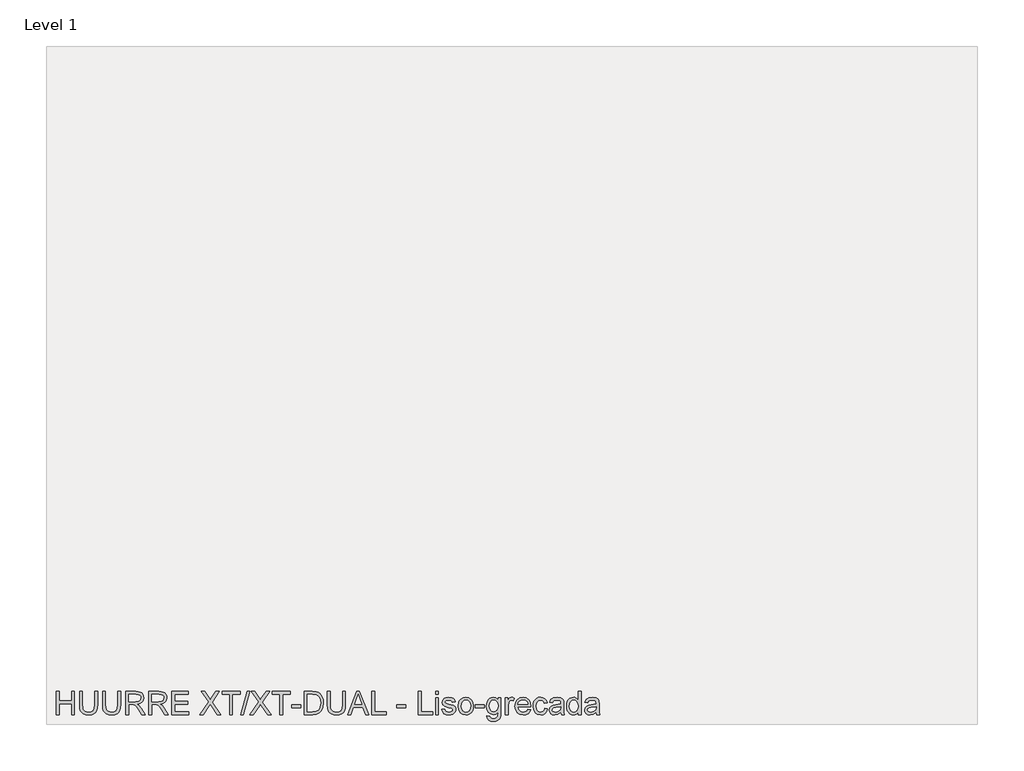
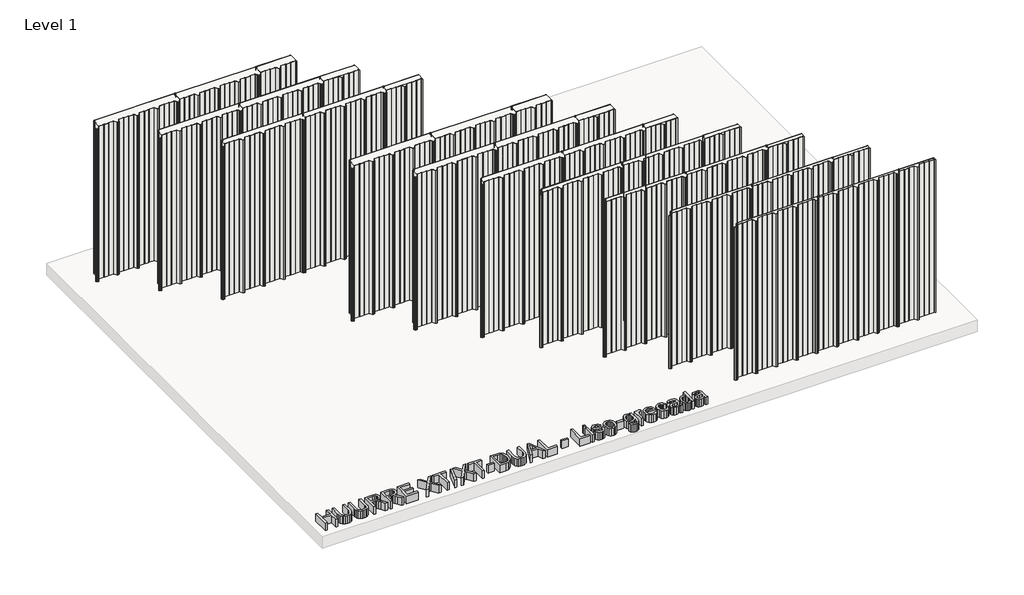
# One storey, part 2 of 2: 10 slabs, 1 proxy.
"""IFC4 building model written with IfcOpenShell, lengths in millimetres."""

from ifc_helpers import new_model, si_unit, origin, origin_with_axes, place, context, project, spatial, polyline, outline, extrude, transform, mapped, element, save
from components import hi_quadcore_2_0_xt_100_liso_grecada_3691bdb9, hi_quadcore_2_0_xt_100_liso_grecada_bb893d0f, hi_quadcore_2_0_xt_100_liso_grecada_5e3a8000, hi_quadcore_2_0_xt_120_liso_grecada_8e815707, hi_quadcore_2_0_xt_120_liso_grecada_a0ecb60e, hi_quadcore_2_0_xt_120_liso_grecada_1b2f7235, hi_quadcore_2_0_xt_120_liso_grecada_48899863, hi_quadcore_2_0_xt_30_liso_grecada_d6f32195, hi_quadcore_2_0_xt_30_liso_grecada_72e4314b, hi_quadcore_2_0_xt_30_liso_grecada_0a3880c4, hi_quadcore_2_0_xt_40_liso_grecada_13bfc901, hi_quadcore_2_0_xt_40_liso_grecada_7d9000d5, hi_quadcore_2_0_xt_40_liso_grecada_7a4d06f4, hi_quadcore_2_0_xt_50_liso_grecada_a248ecb3, hi_quadcore_2_0_xt_50_liso_grecada_fe10ae16, hi_quadcore_2_0_xt_50_liso_grecada_4b62e7a8, hi_quadcore_2_0_xt_60_liso_grecada_8b6392d8, hi_quadcore_2_0_xt_60_liso_grecada_5afc28c5, hi_quadcore_2_0_xt_60_liso_grecada_21506734, hi_quadcore_2_0_xt_80_liso_grecada_e33320db, hi_quadcore_2_0_xt_80_liso_grecada_cd35402f, hi_quadcore_2_0_xt_80_liso_grecada_460e0768, hi_quadcore_2_0_xt_dual_100_liso_grecada_713d99ed, hi_quadcore_2_0_xt_dual_80_liso_grecada_9f1d5c36

model = new_model("IFC4")

# Units and contexts
model_context = context("Model", 3, world=origin())
ifc_project = project(units=[si_unit("LENGTHUNIT", "METRE", prefix="MILLI")], contexts=[model_context])

# Site, building, storey
site = spatial("IfcSite", under=ifc_project)
building = spatial("IfcBuilding", under=site)
storey = spatial("IfcBuildingStorey", under=building, Name="Level 1", Elevation=0.0)

# Proxy
placement = place(None, origin())
element("IfcBuildingElementProxy", 1, Name="200mm Arial", ObjectType="200mm Arial", at=placement, inside=storey, context=model_context, shape_type="SweptSolid", body=[
    extrude(outline(polyline([(10660.8097426, 798.4307978), (10660.8097426, 999.3434181), (10685.9238201, 999.3434181), (10685.9238201, 917.7226661), (10792.6586497, 917.7226661), (10792.6586497, 999.3434181), (10817.7727272, 999.3434181), (10817.7727272, 798.4307978), (10792.6586497, 798.4307978), (10792.6586497, 892.6085886), (10685.9238201, 892.6085886), (10685.9238201, 798.4307978), (10660.8097426, 798.4307978)])), origin_with_axes(), (0.0, 0.0, 1.0), 100.0),
    extrude(outline(polyline([(10993.57127, 999.3434181), (11018.6853475, 999.3434181), (11018.6853475, 883.4360642), (11016.9808276, 856.2925043), (11011.8672679, 835.3906756), (11002.3145987, 819.2651815), (10987.2927506, 806.4506253), (10966.7649353, 798.0813099), (10940.6943645, 795.2915381), (10915.1940109, 797.7195593), (10894.807217, 805.0036228), (10879.5278515, 816.8923426), (10869.3497829, 833.1343327), (10863.6292179, 854.9190782), (10861.7223629, 883.4360642), (10861.7223629, 999.3434181), (10886.8364404, 999.3434181), (10886.8364404, 884.318981), (10888.0749765, 861.7494205), (10891.7905846, 846.034728), (10898.5228252, 835.1515523), (10908.8112583, 827.0765425), (10922.2266884, 822.0733474), (10938.3399198, 820.4056157), (10963.883193, 823.7042909), (10980.8670784, 833.6003165), (10990.3952221, 852.8773331), (10993.57127, 884.318981), (10993.57127, 999.3434181)])), origin_with_axes(), (0.0, 0.0, 1.0), 100.0),
    extrude(outline(polyline([(11194.4838903, 999.3434181), (11219.5979678, 999.3434181), (11219.5979678, 883.4360642), (11217.8934479, 856.2925043), (11212.7798882, 835.3906756), (11203.227219, 819.2651815), (11188.2053709, 806.4506253), (11167.6775556, 798.0813099), (11141.6069848, 795.2915381), (11116.1066312, 797.7195593), (11095.7198373, 805.0036228), (11080.4404718, 816.8923426), (11070.2624032, 833.1343327), (11064.5418382, 854.9190782), (11062.6349832, 883.4360642), (11062.6349832, 999.3434181), (11087.7490607, 999.3434181), (11087.7490607, 884.318981), (11088.9875968, 861.7494205), (11092.7032049, 846.034728), (11099.4354455, 835.1515523), (11109.7238786, 827.0765425), (11123.1393087, 822.0733474), (11139.2525401, 820.4056157), (11164.7958133, 823.7042909), (11181.7796987, 833.6003165), (11191.3078424, 852.8773331), (11194.4838903, 884.318981), (11194.4838903, 999.3434181)])), origin_with_axes(), (0.0, 0.0, 1.0), 100.0),
    extrude(outline(polyline([(11263.5476035, 798.4307978), (11263.5476035, 999.3434181), (11350.1224997, 999.3434181), (11373.3910359, 997.9883861), (11390.319739, 993.92329), (11402.6928368, 986.4184973), (11412.2945569, 974.7443754), (11418.4565803, 960.2682189), (11420.5105881, 944.3573226), (11417.1076797, 924.5652712), (11406.8989543, 908.1577342), (11389.5778437, 896.127993), (11364.8377795, 889.4693289), (11379.1116009, 878.7271746), (11399.467738, 852.8773331), (11432.969525, 798.4307978), (11403.7842201, 798.4307978), (11377.6400729, 840.0750397), (11358.7554639, 867.6416638), (11345.4871866, 880.6646865), (11333.5432844, 885.4471524), (11318.9751574, 886.3300692), (11288.661681, 886.3300692), (11288.661681, 798.4307978), (11263.5476035, 798.4307978)]), holes=[polyline([(11288.661681, 911.4441467), (11344.8740499, 911.4441467), (11373.5443201, 915.0003393), (11382.9743619, 919.6233898), (11389.8292297, 926.3801557), (11395.3965106, 943.4253548), (11392.7416288, 955.6758253), (11384.7769836, 965.5473255), (11371.0733793, 972.0588368), (11351.2016202, 974.2293406), (11288.661681, 974.2293406), (11288.661681, 911.4441467)])]), origin_with_axes(), (0.0, 0.0, 1.0), 100.0),
    extrude(outline(polyline([(11464.4602238, 798.4307978), (11464.4602238, 999.3434181), (11551.03512, 999.3434181), (11574.3036562, 997.9883861), (11591.2323593, 993.92329), (11603.6054571, 986.4184973), (11613.2071772, 974.7443754), (11619.3692006, 960.2682189), (11621.4232084, 944.3573226), (11618.0203, 924.5652712), (11607.8115746, 908.1577342), (11590.490464, 896.127993), (11565.7503998, 889.4693289), (11580.0242212, 878.7271746), (11600.3803583, 852.8773331), (11633.8821453, 798.4307978), (11604.6968404, 798.4307978), (11578.5526932, 840.0750397), (11559.6680842, 867.6416638), (11546.3998069, 880.6646865), (11534.4559047, 885.4471524), (11519.8877777, 886.3300692), (11489.5743013, 886.3300692), (11489.5743013, 798.4307978), (11464.4602238, 798.4307978)]), holes=[polyline([(11489.5743013, 911.4441467), (11545.7866702, 911.4441467), (11574.4569404, 915.0003393), (11583.8869822, 919.6233898), (11590.74185, 926.3801557), (11596.3091309, 943.4253548), (11593.6542491, 955.6758253), (11585.6896039, 965.5473255), (11571.9859996, 972.0588368), (11552.1142405, 974.2293406), (11489.5743013, 974.2293406), (11489.5743013, 911.4441467)])]), origin_with_axes(), (0.0, 0.0, 1.0), 100.0),
    extrude(outline(polyline([(11665.3728441, 798.4307978), (11665.3728441, 999.3434181), (11809.7787899, 999.3434181), (11809.7787899, 974.2293406), (11690.4869216, 974.2293406), (11690.4869216, 914.5834064), (11803.5002706, 914.5834064), (11803.5002706, 889.4693289), (11690.4869216, 889.4693289), (11690.4869216, 823.5448753), (11812.9180496, 823.5448753), (11812.9180496, 798.4307978), (11665.3728441, 798.4307978)])), origin_with_axes(), (0.0, 0.0, 1.0), 100.0),
    extrude(outline(polyline([(11907.0958404, 798.4307978), (11984.4982122, 907.9124796), (11919.6528792, 999.3434181), (11949.7211009, 999.3434181), (11986.2640458, 947.8399388), (11998.5758299, 927.7781073), (12012.9968041, 948.2813972), (12049.1473415, 999.3434181), (12079.7551235, 999.3434181), (12014.8607395, 907.569123), (12092.3121622, 798.4307978), (12062.1948896, 798.4307978), (12010.5442574, 871.173331), (11999.8021032, 886.2319673), (11988.0789303, 869.701803), (11937.7036224, 798.4307978), (11907.0958404, 798.4307978)])), origin_with_axes(), (0.0, 0.0, 1.0), 100.0),
    extrude(outline(polyline([(12167.6543948, 798.4307978), (12167.6543948, 974.2293406), (12101.7299413, 974.2293406), (12101.7299413, 999.3434181), (12258.6929259, 999.3434181), (12258.6929259, 974.2293406), (12192.7684724, 974.2293406), (12192.7684724, 798.4307978), (12167.6543948, 798.4307978)])), origin_with_axes(), (0.0, 0.0, 1.0), 100.0),
    extrude(outline(polyline([(12264.9714453, 798.4307978), (12321.4781198, 999.3434181), (12344.2377525, 999.3434181), (12287.6820271, 798.4307978), (12264.9714453, 798.4307978)])), origin_with_axes(), (0.0, 0.0, 1.0), 100.0),
    extrude(outline(polyline([(12343.4529376, 798.4307978), (12420.8553094, 907.9124796), (12356.0099764, 999.3434181), (12386.0781981, 999.3434181), (12422.621143, 947.8399388), (12434.9329271, 927.7781073), (12449.3539013, 948.2813972), (12485.5044387, 999.3434181), (12516.1122207, 999.3434181), (12451.2178367, 907.569123), (12528.6692594, 798.4307978), (12498.5519868, 798.4307978), (12446.9013547, 871.173331), (12436.1592004, 886.2319673), (12424.4360275, 869.701803), (12374.0607196, 798.4307978), (12343.4529376, 798.4307978)])), origin_with_axes(), (0.0, 0.0, 1.0), 100.0),
    extrude(outline(polyline([(12604.0114921, 798.4307978), (12604.0114921, 974.2293406), (12538.0870385, 974.2293406), (12538.0870385, 999.3434181), (12695.0500231, 999.3434181), (12695.0500231, 974.2293406), (12629.1255696, 974.2293406), (12629.1255696, 798.4307978), (12604.0114921, 798.4307978)])), origin_with_axes(), (0.0, 0.0, 1.0), 100.0),
    extrude(outline(polyline([(12707.6070619, 858.076732), (12707.6070619, 883.1908095), (12786.0885542, 883.1908095), (12786.0885542, 858.076732), (12707.6070619, 858.076732)])), origin_with_axes(), (0.0, 0.0, 1.0), 100.0),
    extrude(outline(polyline([(12817.4811511, 798.4307978), (12817.4811511, 999.3434181), (12886.790119, 999.3434181), (12922.6463508, 996.4494131), (12938.6614803, 990.8698695), (12952.1750123, 982.0774898), (12966.068689, 966.7735988), (12975.9647146, 947.7418369), (12981.8876148, 925.3500861), (12983.8619148, 899.9662285), (12978.5153631, 859.4256326), (12964.781102, 830.1667513), (12946.4360532, 811.9443298), (12922.4256216, 801.8643631), (12890.1255824, 798.4307978), (12817.4811511, 798.4307978)]), holes=[polyline([(12842.5952287, 823.5448753), (12887.0353737, 823.5448753), (12919.3599383, 827.1746444), (12937.9992927, 837.4262893), (12946.7242274, 848.2972023), (12953.2786583, 862.3686886), (12957.3805425, 879.7020619), (12958.7478373, 900.3586359), (12956.0684301, 927.7290564), (12948.0302085, 947.9380407), (12936.1537514, 961.8194546), (12921.9596378, 970.2071641), (12886.3486606, 974.2293406), (12842.5952287, 974.2293406), (12842.5952287, 823.5448753)])]), origin_with_axes(), (0.0, 0.0, 1.0), 100.0),
    extrude(outline(polyline([(13150.2426785, 999.3434181), (13175.356756, 999.3434181), (13175.356756, 883.4360642), (13173.6522361, 856.2925043), (13168.5386764, 835.3906756), (13158.9860072, 819.2651815), (13143.9641591, 806.4506253), (13123.4363438, 798.0813099), (13097.3657731, 795.2915381), (13071.8654194, 797.7195593), (13051.4786255, 805.0036228), (13036.19926, 816.8923426), (13026.0211915, 833.1343327), (13020.3006264, 854.9190782), (13018.3937714, 883.4360642), (13018.3937714, 999.3434181), (13043.507849, 999.3434181), (13043.507849, 884.318981), (13044.746385, 861.7494205), (13048.4619932, 846.034728), (13055.1942337, 835.1515523), (13065.4826668, 827.0765425), (13078.8980969, 822.0733474), (13095.0113283, 820.4056157), (13120.5546015, 823.7042909), (13137.5384869, 833.6003165), (13147.0666306, 852.8773331), (13150.2426785, 884.318981), (13150.2426785, 999.3434181)])), origin_with_axes(), (0.0, 0.0, 1.0), 100.0),
    extrude(outline(polyline([(13195.9581478, 798.4307978), (13276.1564227, 999.3434181), (13297.5426294, 999.3434181), (13377.6918534, 798.4307978), (13351.1552988, 798.4307978), (13328.1994623, 861.2159917), (13245.4014879, 861.2159917), (13222.4456514, 798.4307978), (13195.9581478, 798.4307978)]), holes=[polyline([(13254.6230633, 886.3300692), (13319.0269379, 886.3300692), (13300.8780928, 935.7243584), (13286.8004751, 974.2293406), (13274.2924873, 940.0408405), (13254.6230633, 886.3300692)])]), origin_with_axes(), (0.0, 0.0, 1.0), 100.0),
    extrude(outline(polyline([(13404.5227136, 798.4307978), (13404.5227136, 999.3434181), (13429.6367911, 999.3434181), (13429.6367911, 823.5448753), (13530.0931012, 823.5448753), (13530.0931012, 798.4307978), (13404.5227136, 798.4307978)])), origin_with_axes(), (0.0, 0.0, 1.0), 100.0),
    extrude(outline(polyline([(13621.1316323, 858.076732), (13621.1316323, 883.1908095), (13699.6131246, 883.1908095), (13699.6131246, 858.076732), (13621.1316323, 858.076732)])), origin_with_axes(), (0.0, 0.0, 1.0), 100.0),
    extrude(outline(polyline([(13809.4872139, 798.4307978), (13809.4872139, 999.3434181), (13834.6012914, 999.3434181), (13834.6012914, 823.5448753), (13935.0576015, 823.5448753), (13935.0576015, 798.4307978), (13809.4872139, 798.4307978)])), origin_with_axes(), (0.0, 0.0, 1.0), 100.0),
    extrude(outline(polyline([(13960.1716791, 974.2293406), (13960.1716791, 999.3434181), (13985.2857566, 999.3434181), (13985.2857566, 974.2293406), (13960.1716791, 974.2293406)])), origin_with_axes(), (0.0, 0.0, 1.0), 100.0),
    extrude(outline(polyline([(13960.1716791, 798.4307978), (13960.1716791, 945.9760033), (13985.2857566, 945.9760033), (13985.2857566, 798.4307978), (13960.1716791, 798.4307978)])), origin_with_axes(), (0.0, 0.0, 1.0), 100.0),
    extrude(outline(polyline([(14013.5390938, 842.3804335), (14038.6531714, 845.5196932), (14042.6140342, 834.7775389), (14050.2782424, 826.8803388), (14061.694847, 822.0242964), (14076.9128989, 820.4056157), (14091.9470098, 821.8894064), (14102.5174857, 826.3407785), (14108.7714797, 832.7909762), (14110.8561443, 840.2712434), (14108.7592169, 846.6723901), (14102.4684348, 851.5529579), (14076.6185933, 858.7143941), (14038.8003242, 871.0016527), (14029.2292609, 877.1759389), (14022.2946853, 885.3490505), (14016.6783535, 905.6070857), (14021.1910393, 924.3200166), (14033.5028234, 938.6183634), (14049.468902, 946.0495797), (14071.0758379, 949.115263), (14101.634569, 944.1856443), (14113.0634363, 938.3853715), (14121.0587383, 930.8437906), (14129.6917025, 908.304887), (14104.5776249, 905.1656273), (14101.4077084, 913.0689589), (14095.1353204, 919.0225158), (14073.0378752, 924.0011855), (14058.616901, 922.8117004), (14049.0029182, 919.243245), (14043.5950529, 914.0928971), (14041.7924311, 908.1577342), (14044.784538, 900.8491453), (14054.1532661, 895.3063899), (14075.7847274, 889.9598382), (14112.6465033, 878.1385634), (14129.7652789, 864.7476588), (14134.4189861, 854.9006841), (14135.9702218, 842.9199938), (14134.149206, 830.5346333), (14128.6861583, 818.8850367), (14119.7895454, 808.8847778), (14107.6678337, 801.4474302), (14093.0261303, 796.8305111), (14076.5695424, 795.2915381), (14051.2469984, 798.2591195), (14032.7670595, 807.1618638), (14020.4307499, 821.9016691), (14013.5390938, 842.3804335)])), origin_with_axes(), (0.0, 0.0, 1.0), 100.0),
    extrude(outline(polyline([(14157.9450397, 872.2034006), (14163.3774305, 907.7775895), (14170.167919, 921.6007555), (14179.6746029, 932.7813024), (14199.8100107, 945.0317729), (14223.9185442, 949.115263), (14250.3018146, 944.1427247), (14271.3753215, 929.2251098), (14285.1892904, 905.5396407), (14289.7939468, 874.2635397), (14287.758333, 848.8919448), (14281.6514919, 829.5781401), (14271.651233, 815.1142463), (14257.935366, 804.2923843), (14241.644325, 797.5417497), (14223.9185442, 795.2915381), (14197.2164427, 800.2456823), (14176.1674612, 815.1081149), (14162.5006451, 839.2902247), (14157.9450397, 872.2034006)]), holes=[polyline([(14183.0591172, 872.2524515), (14185.965385, 849.5234756), (14194.6841883, 833.3305364), (14207.8053128, 823.6368458), (14223.9185442, 820.4056157), (14239.9581991, 823.6552399), (14253.0547982, 833.4041128), (14261.7736015, 849.8116498), (14264.6798692, 873.0372664), (14261.7552074, 895.1040548), (14252.9812218, 911.0762647), (14239.8662286, 920.7699553), (14223.9185442, 924.0011855), (14207.8053128, 920.782218), (14194.6841883, 911.1253157), (14185.965385, 894.9691647), (14183.0591172, 872.2524515)])]), origin_with_axes(), (0.0, 0.0, 1.0), 100.0),
    extrude(outline(polyline([(14305.4902452, 858.076732), (14305.4902452, 883.1908095), (14383.9717375, 883.1908095), (14383.9717375, 858.076732), (14305.4902452, 858.076732)])), origin_with_axes(), (0.0, 0.0, 1.0), 100.0),
    extrude(outline(polyline([(14405.9465554, 785.873759), (14431.0606329, 782.7344993), (14433.8320106, 774.8863501), (14439.2030877, 769.4907475), (14449.761301, 765.2968928), (14463.5814013, 763.8989412), (14478.3212066, 765.4808338), (14489.28409, 770.2265115), (14496.8869846, 777.8294061), (14501.5468232, 787.9829491), (14503.2636058, 817.266356), (14485.5807446, 803.1396873), (14464.0228597, 798.4307978), (14438.1300986, 803.9122395), (14418.8224252, 820.3565647), (14406.8110781, 844.4650981), (14402.8072957, 872.9391646), (14404.6037861, 893.2155939), (14409.9932573, 911.8610797), (14418.785637, 927.6616113), (14430.7908528, 939.4031784), (14445.5981031, 946.6872419), (14462.7965864, 949.115263), (14485.2005999, 943.6215586), (14503.2636058, 927.1404452), (14503.2636058, 945.9760033), (14528.3776834, 945.9760033), (14528.3776834, 818.5907311), (14526.6609007, 789.1785656), (14521.5105528, 769.8095786), (14512.6384653, 756.9643656), (14499.7564641, 747.1235222), (14483.1465921, 740.8695283), (14463.090892, 738.7848637), (14439.7242539, 741.7217883), (14421.3240228, 750.532562), (14409.5211421, 765.2417105), (14405.9465554, 785.873759)]), holes=[polyline([(14427.9213732, 874.6559472), (14430.6007804, 851.6204029), (14438.639002, 835.7830831), (14450.7239255, 826.6044273), (14465.5434386, 823.5448753), (14480.252587, 826.5860332), (14492.3988242, 835.7095067), (14500.5474104, 851.3444915), (14503.2636058, 873.9201832), (14500.4677027, 895.692666), (14492.0799932, 911.3705703), (14479.7559463, 920.8435317), (14465.1510311, 924.0011855), (14450.8097647, 920.8925826), (14438.7861548, 911.5667741), (14430.6375686, 896.1218616), (14427.9213732, 874.6559472)])]), origin_with_axes(), (0.0, 0.0, 1.0), 100.0),
    extrude(outline(polyline([(14566.0487997, 798.4307978), (14566.0487997, 945.9760033), (14588.0236175, 945.9760033), (14588.0236175, 924.1483383), (14603.6218141, 944.2592207), (14619.3181126, 949.115263), (14631.8261004, 947.1777512), (14644.530292, 941.3652157), (14636.1425825, 918.8508376), (14618.4842467, 924.0011855), (14604.2840017, 919.0470413), (14595.2341046, 905.3127801), (14591.1628772, 875.9803224), (14591.1628772, 798.4307978), (14566.0487997, 798.4307978)])), origin_with_axes(), (0.0, 0.0, 1.0), 100.0),
    extrude(outline(polyline([(14763.5278547, 842.3804335), (14788.1514229, 839.2411738), (14779.2793354, 820.6876585), (14765.12201, 806.8185073), (14745.9982776, 798.1732804), (14722.2269694, 795.2915381), (14692.7596215, 800.2640764), (14670.0858279, 815.1816913), (14655.6280655, 839.0756269), (14650.8088114, 870.9771273), (14655.6771164, 903.9516168), (14670.2820316, 928.6119732), (14692.6492569, 943.9894406), (14720.8044923, 949.115263), (14748.0829422, 944.0017033), (14769.8799505, 928.6610241), (14784.172166, 904.0497186), (14788.9362378, 871.1242801), (14788.789085, 864.3552513), (14675.9228889, 864.3552513), (14680.2700278, 845.5564814), (14690.3683886, 831.7363811), (14704.9426469, 823.238307), (14722.7174787, 820.4056157), (14747.3410469, 825.6540655), (14756.4890458, 832.4598824), (14763.5278547, 842.3804335)]), holes=[polyline([(14675.9228889, 889.4693289), (14763.8221603, 889.4693289), (14760.4253832, 902.7376062), (14753.7667191, 912.2289617), (14739.1250157, 921.0581295), (14720.7063904, 924.0011855), (14703.7776873, 921.6528721), (14689.7797774, 914.6079319), (14680.0492986, 903.6266543), (14675.9228889, 889.4693289)])]), origin_with_axes(), (0.0, 0.0, 1.0), 100.0),
    extrude(outline(polyline([(14908.2281061, 851.7982126), (14933.3421837, 848.6589529), (14926.340163, 826.3223844), (14913.1822503, 809.4427322), (14895.1069816, 798.8293366), (14873.352893, 795.2915381), (14846.6385288, 800.2272882), (14825.7489628, 815.0345385), (14812.2660877, 839.0633642), (14807.771796, 871.6638403), (14809.6909137, 894.0126715), (14815.4482669, 913.3816586), (14825.1358261, 929.0227747), (14838.8455618, 940.1879933), (14855.2469674, 946.8834456), (14873.0095364, 949.115263), (14894.2301962, 946.0495797), (14911.1956875, 936.8525299), (14923.3664502, 922.0146227), (14930.202924, 902.0263677), (14905.0888464, 898.887108), (14900.533241, 909.8438601), (14893.4392499, 917.6981406), (14884.1992805, 922.4254243), (14873.2057402, 924.0011855), (14856.9760128, 920.898714), (14844.0940116, 911.5912995), (14835.687908, 895.57617), (14832.8858735, 872.3505534), (14835.6265944, 848.8122371), (14843.848757, 832.7419252), (14856.4977662, 823.489693), (14872.5190271, 820.4056157), (14885.5236556, 822.3308648), (14896.1861021, 828.1066121), (14903.9422809, 837.8800104), (14908.2281061, 851.7982126)])), origin_with_axes(), (0.0, 0.0, 1.0), 100.0),
    extrude(outline(polyline([(15049.4947923, 817.266356), (15025.1410042, 800.2456823), (14998.2365676, 795.2915381), (14977.2488998, 798.2713823), (14961.7671991, 807.2109148), (14952.2206614, 820.7857604), (14949.0384821, 837.671544), (14953.8454735, 857.5371717), (14966.4760887, 871.9581459), (14984.0608481, 880.1987026), (15005.7904112, 883.9756244), (15049.3476395, 892.6085886), (15049.4947923, 898.2003949), (15047.7657469, 909.408533), (15042.5786108, 916.7416475), (15030.9780652, 922.186301), (15014.8157829, 924.0011855), (14999.8552484, 922.7933063), (14989.4073997, 919.1696686), (14982.2827517, 912.4680849), (14977.2918193, 902.0263677), (14952.1777418, 905.1656273), (14963.0425234, 929.6910937), (14972.3008869, 937.9439131), (14984.9192394, 944.063017), (15018.0531444, 949.115263), (15048.4892481, 944.6516282), (15065.6816001, 933.44349), (15073.3825965, 916.3982909), (15074.6088698, 894.4234731), (15074.6088698, 863.178029), (15075.884194, 819.5472243), (15080.8873892, 798.4307978), (15055.7733116, 798.4307978), (15049.4947923, 817.266356)]), holes=[polyline([(15049.4947923, 867.494511), (15008.9787219, 859.7935146), (14987.371786, 855.7222872), (14977.5861249, 849.1004113), (14974.1525597, 839.4373775), (14976.0226265, 831.969373), (14981.6328269, 825.8502692), (14990.8605336, 821.766779), (15003.5831193, 820.4056157), (15017.0721258, 821.9078005), (15028.9915024, 826.4143549), (15045.3745139, 840.9579565), (15049.3476395, 860.3821258), (15049.4947923, 867.494511)])]), origin_with_axes(), (0.0, 0.0, 1.0), 100.0),
    extrude(outline(polyline([(15200.1792575, 798.4307978), (15200.1792575, 822.1223983), (15192.6652677, 810.383897), (15183.563254, 801.9992532), (15172.8732164, 796.9684669), (15160.5951548, 795.2915381), (15144.3592961, 797.7195593), (15129.4968635, 805.0036228), (15116.9152992, 816.6348252), (15107.5220456, 832.1042631), (15101.6727219, 850.7865371), (15099.7229473, 872.0562478), (15101.5194377, 893.0623097), (15106.908909, 912.0327579), (15115.8852297, 927.8884719), (15128.4422684, 939.5503312), (15143.6296635, 946.7240301), (15160.4970529, 949.115263), (15172.7843116, 947.4046118), (15183.6490932, 942.2726579), (15200.1792575, 924.4916948), (15200.1792575, 999.3434181), (15225.293335, 999.3434181), (15225.293335, 798.4307978), (15200.1792575, 798.4307978)]), holes=[polyline([(15124.8370249, 872.1543496), (15127.6697162, 849.4376364), (15136.1677903, 833.2814855), (15148.5163626, 823.6245831), (15162.9005486, 820.4056157), (15177.2786033, 823.4774303), (15189.3144759, 832.6928743), (15197.4630621, 848.2236259), (15200.1792575, 870.2413633), (15197.4140112, 894.3131085), (15189.1182722, 911.0026883), (15176.7758312, 920.7515612), (15161.8704791, 924.0011855), (15147.3391402, 920.8803199), (15135.4320263, 911.5177231), (15127.4857752, 895.4351486), (15124.8370249, 872.1543496)])]), origin_with_axes(), (0.0, 0.0, 1.0), 100.0),
    extrude(outline(polyline([(15357.1422421, 817.266356), (15332.788454, 800.2456823), (15305.8840174, 795.2915381), (15284.8963496, 798.2713823), (15269.414649, 807.2109148), (15259.8681112, 820.7857604), (15256.6859319, 837.671544), (15261.4929233, 857.5371717), (15274.1235385, 871.9581459), (15291.7082979, 880.1987026), (15313.4378611, 883.9756244), (15356.9950893, 892.6085886), (15357.1422421, 898.2003949), (15355.4131967, 909.408533), (15350.2260606, 916.7416475), (15338.625515, 922.186301), (15322.4632327, 924.0011855), (15307.5026982, 922.7933063), (15297.0548496, 919.1696686), (15289.9302016, 912.4680849), (15284.9392692, 902.0263677), (15259.8251916, 905.1656273), (15270.6899732, 929.6910937), (15279.9483368, 937.9439131), (15292.5666892, 944.063017), (15325.7005942, 949.115263), (15356.136698, 944.6516282), (15373.3290499, 933.44349), (15381.0300463, 916.3982909), (15382.2563196, 894.4234731), (15382.2563196, 863.178029), (15383.5316439, 819.5472243), (15388.534839, 798.4307978), (15363.4207615, 798.4307978), (15357.1422421, 817.266356)]), holes=[polyline([(15357.1422421, 867.494511), (15316.6261717, 859.7935146), (15295.0192358, 855.7222872), (15285.2335748, 849.1004113), (15281.8000095, 839.4373775), (15283.6700763, 831.969373), (15289.2802767, 825.8502692), (15298.5079834, 821.766779), (15311.2305691, 820.4056157), (15324.7195756, 821.9078005), (15336.6389522, 826.4143549), (15353.0219637, 840.9579565), (15356.9950893, 860.3821258), (15357.1422421, 867.494511)])]), origin_with_axes(), (0.0, 0.0, 1.0), 100.0),
])

# Slabs
hi_quadcore_2_0_xt_100_liso_grecada_shape = hi_quadcore_2_0_xt_100_liso_grecada_3691bdb9(model_context)
hi_quadcore_2_0_xt_100_liso_grecada_2_shape = hi_quadcore_2_0_xt_100_liso_grecada_bb893d0f(model_context)
hi_quadcore_2_0_xt_100_liso_grecada_3_shape = hi_quadcore_2_0_xt_100_liso_grecada_5e3a8000(model_context)
element("IfcSlab", 2, ObjectType="HI_QuadCore2.0XT-XT DUAL : HI-Quadcore 2.0 XT 100 liso-grecada", at=placement, inside=storey, context=model_context, shape_type="MappedRepresentation", body=[
    mapped(hi_quadcore_2_0_xt_100_liso_grecada_shape, transform((13230.1790329, 3696.8251299, 0.0), x_axis=(1.0, 0.0, 0.0), y_axis=(0.0, 0.0, 1.0), z_axis=(0.0, -1.0, 0.0))),
    mapped(hi_quadcore_2_0_xt_100_liso_grecada_2_shape, transform((13230.1790329, 3696.8251299, 0.0), x_axis=(1.0, 0.0, 0.0), y_axis=(0.0, 0.0, 1.0), z_axis=(0.0, -1.0, 0.0))),
    mapped(hi_quadcore_2_0_xt_100_liso_grecada_3_shape, transform((13230.1790329, 3696.8251299, 0.0), x_axis=(1.0, 0.0, 0.0), y_axis=(0.0, 0.0, 1.0), z_axis=(0.0, -1.0, 0.0))),
])
hi_quadcore_2_0_xt_120_liso_grecada_shape = hi_quadcore_2_0_xt_120_liso_grecada_8e815707(model_context)
hi_quadcore_2_0_xt_120_liso_grecada_2_shape = hi_quadcore_2_0_xt_120_liso_grecada_a0ecb60e(model_context)
hi_quadcore_2_0_xt_120_liso_grecada_3_shape = hi_quadcore_2_0_xt_120_liso_grecada_1b2f7235(model_context)
hi_quadcore_2_0_xt_120_liso_grecada_4_shape = hi_quadcore_2_0_xt_120_liso_grecada_48899863(model_context)
element("IfcSlab", 3, ObjectType="HI_QuadCore2.0XT-XT DUAL : HI-Quadcore 2.0 XT 120 liso-grecada", at=placement, inside=storey, context=model_context, shape_type="MappedRepresentation", body=[
    mapped(hi_quadcore_2_0_xt_120_liso_grecada_shape, transform((12730.1790329, 4196.8251299, 0.0), x_axis=(1.0, 0.0, 0.0), y_axis=(0.0, 0.0, 1.0), z_axis=(0.0, -1.0, 0.0))),
    mapped(hi_quadcore_2_0_xt_120_liso_grecada_2_shape, transform((12730.1790329, 4196.8251299, 0.0), x_axis=(1.0, 0.0, 0.0), y_axis=(0.0, 0.0, 1.0), z_axis=(0.0, -1.0, 0.0))),
    mapped(hi_quadcore_2_0_xt_120_liso_grecada_3_shape, transform((12730.1790329, 4196.8251299, 0.0), x_axis=(1.0, 0.0, 0.0), y_axis=(0.0, 0.0, 1.0), z_axis=(0.0, -1.0, 0.0))),
    mapped(hi_quadcore_2_0_xt_120_liso_grecada_4_shape, transform((12730.1790329, 4196.8251299, 0.0), x_axis=(1.0, 0.0, 0.0), y_axis=(0.0, 0.0, 1.0), z_axis=(0.0, -1.0, 0.0))),
])
hi_quadcore_2_0_xt_30_liso_grecada_shape = hi_quadcore_2_0_xt_30_liso_grecada_d6f32195(model_context)
hi_quadcore_2_0_xt_30_liso_grecada_2_shape = hi_quadcore_2_0_xt_30_liso_grecada_72e4314b(model_context)
hi_quadcore_2_0_xt_30_liso_grecada_3_shape = hi_quadcore_2_0_xt_30_liso_grecada_0a3880c4(model_context)
element("IfcSlab", 4, ObjectType="HI_QuadCore2.0XT-XT DUAL : HI-Quadcore 2.0 XT 30 liso-grecada", at=placement, inside=storey, context=model_context, shape_type="MappedRepresentation", body=[
    mapped(hi_quadcore_2_0_xt_30_liso_grecada_shape, transform((15730.1790329, 1100.4261299, 0.0), x_axis=(1.0, 0.0, 0.0), y_axis=(0.0, 0.0, 1.0), z_axis=(0.0, -1.0, 0.0))),
    mapped(hi_quadcore_2_0_xt_30_liso_grecada_2_shape, transform((15730.1790329, 1100.4261299, 0.0), x_axis=(1.0, 0.0, 0.0), y_axis=(0.0, 0.0, 1.0), z_axis=(0.0, -1.0, 0.0))),
    mapped(hi_quadcore_2_0_xt_30_liso_grecada_3_shape, transform((15730.1790329, 1100.4261299, 0.0), x_axis=(1.0, 0.0, 0.0), y_axis=(0.0, 0.0, 1.0), z_axis=(0.0, -1.0, 0.0))),
])
hi_quadcore_2_0_xt_40_liso_grecada_shape = hi_quadcore_2_0_xt_40_liso_grecada_13bfc901(model_context)
hi_quadcore_2_0_xt_40_liso_grecada_2_shape = hi_quadcore_2_0_xt_40_liso_grecada_7d9000d5(model_context)
hi_quadcore_2_0_xt_40_liso_grecada_3_shape = hi_quadcore_2_0_xt_40_liso_grecada_7a4d06f4(model_context)
element("IfcSlab", 5, ObjectType="HI_QuadCore2.0XT-XT DUAL : HI-Quadcore 2.0 XT 40 liso-grecada", at=placement, inside=storey, context=model_context, shape_type="MappedRepresentation", body=[
    mapped(hi_quadcore_2_0_xt_40_liso_grecada_shape, transform((15230.1790329, 1648.6255724, 0.0), x_axis=(1.0, 0.0, 0.0), y_axis=(0.0, 0.0, 1.0), z_axis=(0.0, -1.0, 0.0))),
    mapped(hi_quadcore_2_0_xt_40_liso_grecada_2_shape, transform((15230.1790329, 1648.6255724, 0.0), x_axis=(1.0, 0.0, 0.0), y_axis=(0.0, 0.0, 1.0), z_axis=(0.0, -1.0, 0.0))),
    mapped(hi_quadcore_2_0_xt_40_liso_grecada_3_shape, transform((15230.1790329, 1648.6255724, 0.0), x_axis=(1.0, 0.0, 0.0), y_axis=(0.0, 0.0, 1.0), z_axis=(0.0, -1.0, 0.0))),
])
hi_quadcore_2_0_xt_50_liso_grecada_shape = hi_quadcore_2_0_xt_50_liso_grecada_a248ecb3(model_context)
hi_quadcore_2_0_xt_50_liso_grecada_2_shape = hi_quadcore_2_0_xt_50_liso_grecada_fe10ae16(model_context)
hi_quadcore_2_0_xt_50_liso_grecada_3_shape = hi_quadcore_2_0_xt_50_liso_grecada_4b62e7a8(model_context)
element("IfcSlab", 6, ObjectType="HI_QuadCore2.0XT-XT DUAL : HI-Quadcore 2.0 XT 50 liso-grecada", at=placement, inside=storey, context=model_context, shape_type="MappedRepresentation", body=[
    mapped(hi_quadcore_2_0_xt_50_liso_grecada_shape, transform((14730.1790329, 2196.8250149, 0.0), x_axis=(1.0, 0.0, 0.0), y_axis=(0.0, 0.0, 1.0), z_axis=(0.0, -1.0, 0.0))),
    mapped(hi_quadcore_2_0_xt_50_liso_grecada_2_shape, transform((14730.1790329, 2196.8250149, 0.0), x_axis=(1.0, 0.0, 0.0), y_axis=(0.0, 0.0, 1.0), z_axis=(0.0, -1.0, 0.0))),
    mapped(hi_quadcore_2_0_xt_50_liso_grecada_3_shape, transform((14730.1790329, 2196.8250149, 0.0), x_axis=(1.0, 0.0, 0.0), y_axis=(0.0, 0.0, 1.0), z_axis=(0.0, -1.0, 0.0))),
])
hi_quadcore_2_0_xt_60_liso_grecada_shape = hi_quadcore_2_0_xt_60_liso_grecada_8b6392d8(model_context)
hi_quadcore_2_0_xt_60_liso_grecada_2_shape = hi_quadcore_2_0_xt_60_liso_grecada_5afc28c5(model_context)
hi_quadcore_2_0_xt_60_liso_grecada_3_shape = hi_quadcore_2_0_xt_60_liso_grecada_21506734(model_context)
element("IfcSlab", 7, ObjectType="HI_QuadCore2.0XT-XT DUAL : HI-Quadcore 2.0 XT 60 liso-grecada", at=placement, inside=storey, context=model_context, shape_type="MappedRepresentation", body=[
    mapped(hi_quadcore_2_0_xt_60_liso_grecada_shape, transform((14230.1790329, 2696.8250149, 0.0), x_axis=(1.0, 0.0, 0.0), y_axis=(0.0, 0.0, 1.0), z_axis=(0.0, -1.0, 0.0))),
    mapped(hi_quadcore_2_0_xt_60_liso_grecada_2_shape, transform((14230.1790329, 2696.8250149, 0.0), x_axis=(1.0, 0.0, 0.0), y_axis=(0.0, 0.0, 1.0), z_axis=(0.0, -1.0, 0.0))),
    mapped(hi_quadcore_2_0_xt_60_liso_grecada_3_shape, transform((14230.1790329, 2696.8250149, 0.0), x_axis=(1.0, 0.0, 0.0), y_axis=(0.0, 0.0, 1.0), z_axis=(0.0, -1.0, 0.0))),
])
hi_quadcore_2_0_xt_80_liso_grecada_shape = hi_quadcore_2_0_xt_80_liso_grecada_e33320db(model_context)
hi_quadcore_2_0_xt_80_liso_grecada_2_shape = hi_quadcore_2_0_xt_80_liso_grecada_cd35402f(model_context)
hi_quadcore_2_0_xt_80_liso_grecada_3_shape = hi_quadcore_2_0_xt_80_liso_grecada_460e0768(model_context)
element("IfcSlab", 8, ObjectType="HI_QuadCore2.0XT-XT DUAL : HI-Quadcore 2.0 XT 80 liso-grecada", at=placement, inside=storey, context=model_context, shape_type="MappedRepresentation", body=[
    mapped(hi_quadcore_2_0_xt_80_liso_grecada_shape, transform((13780.1790329, 3196.8251299, 0.0), x_axis=(1.0, 0.0, 0.0), y_axis=(0.0, 0.0, 1.0), z_axis=(0.0, -1.0, 0.0))),
    mapped(hi_quadcore_2_0_xt_80_liso_grecada_2_shape, transform((13780.1790329, 3196.8251299, 0.0), x_axis=(1.0, 0.0, 0.0), y_axis=(0.0, 0.0, 1.0), z_axis=(0.0, -1.0, 0.0))),
    mapped(hi_quadcore_2_0_xt_80_liso_grecada_3_shape, transform((13780.1790329, 3196.8251299, 0.0), x_axis=(1.0, 0.0, 0.0), y_axis=(0.0, 0.0, 1.0), z_axis=(0.0, -1.0, 0.0))),
])
hi_quadcore_2_0_xt_dual_100_liso_grecada_shape = hi_quadcore_2_0_xt_dual_100_liso_grecada_713d99ed(model_context)
element("IfcSlab", 9, ObjectType="HI_QuadCore2.0XT-XT DUAL : HI-Quadcore 2.0 XT DUAL 100 liso-grecada", at=placement, inside=storey, context=model_context, shape_type="MappedRepresentation", body=[
    mapped(hi_quadcore_2_0_xt_100_liso_grecada_shape, transform((11230.2142138, 5701.3209705, 0.0), x_axis=(1.0, 0.0, 0.0), y_axis=(0.0, 0.0, 1.0), z_axis=(0.0, -1.0, 0.0))),
    mapped(hi_quadcore_2_0_xt_dual_100_liso_grecada_shape, transform((11230.2142138, 5701.3209705, 0.0), x_axis=(1.0, 0.0, 0.0), y_axis=(0.0, 0.0, 1.0), z_axis=(0.0, -1.0, 0.0))),
    mapped(hi_quadcore_2_0_xt_100_liso_grecada_3_shape, transform((11230.2142138, 5701.3209705, 0.0), x_axis=(1.0, 0.0, 0.0), y_axis=(0.0, 0.0, 1.0), z_axis=(0.0, -1.0, 0.0))),
])
element("IfcSlab", 10, ObjectType="HI_QuadCore2.0XT-XT DUAL : HI-Quadcore 2.0 XT DUAL 120 liso-grecada", at=placement, inside=storey, context=model_context, shape_type="MappedRepresentation", body=[
    mapped(hi_quadcore_2_0_xt_120_liso_grecada_shape, transform((10730.2259408, 6202.819584, 0.0), x_axis=(1.0, 0.0, 0.0), y_axis=(0.0, 0.0, 1.0), z_axis=(0.0, -1.0, 0.0))),
    mapped(hi_quadcore_2_0_xt_120_liso_grecada_2_shape, transform((10730.2259408, 6202.819584, 0.0), x_axis=(1.0, 0.0, 0.0), y_axis=(0.0, 0.0, 1.0), z_axis=(0.0, -1.0, 0.0))),
    mapped(hi_quadcore_2_0_xt_120_liso_grecada_3_shape, transform((10730.2259408, 6202.819584, 0.0), x_axis=(1.0, 0.0, 0.0), y_axis=(0.0, 0.0, 1.0), z_axis=(0.0, -1.0, 0.0))),
    mapped(hi_quadcore_2_0_xt_120_liso_grecada_4_shape, transform((10730.2259408, 6202.819584, 0.0), x_axis=(1.0, 0.0, 0.0), y_axis=(0.0, 0.0, 1.0), z_axis=(0.0, -1.0, 0.0))),
])
hi_quadcore_2_0_xt_dual_80_liso_grecada_shape = hi_quadcore_2_0_xt_dual_80_liso_grecada_9f1d5c36(model_context)
element("IfcSlab", 11, ObjectType="HI_QuadCore2.0XT-XT DUAL : HI-Quadcore 2.0 XT DUAL 80 liso-grecada", at=placement, inside=storey, context=model_context, shape_type="MappedRepresentation", body=[
    mapped(hi_quadcore_2_0_xt_80_liso_grecada_shape, transform((11730.2024868, 5199.8106293, 0.0), x_axis=(1.0, 0.0, 0.0), y_axis=(0.0, 0.0, 1.0), z_axis=(0.0, -1.0, 0.0))),
    mapped(hi_quadcore_2_0_xt_dual_80_liso_grecada_shape, transform((11730.2024868, 5199.8106293, 0.0), x_axis=(1.0, 0.0, 0.0), y_axis=(0.0, 0.0, 1.0), z_axis=(0.0, -1.0, 0.0))),
    mapped(hi_quadcore_2_0_xt_80_liso_grecada_3_shape, transform((11730.2024868, 5199.8106293, 0.0), x_axis=(1.0, 0.0, 0.0), y_axis=(0.0, 0.0, 1.0), z_axis=(0.0, -1.0, 0.0))),
])

save(model, "model.ifc")
